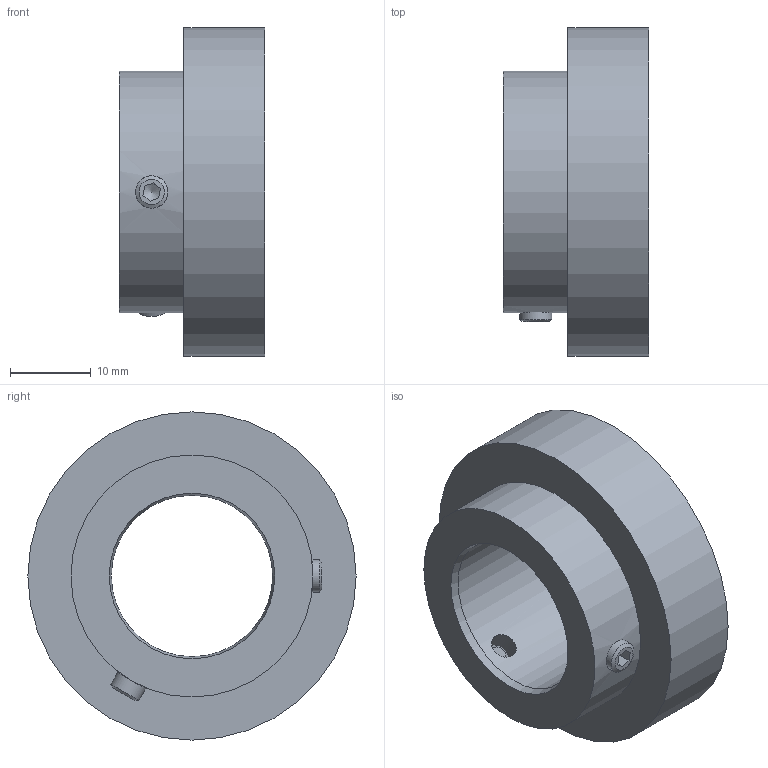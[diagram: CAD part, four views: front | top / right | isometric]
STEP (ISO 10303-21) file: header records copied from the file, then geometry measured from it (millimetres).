
FILE_DESCRIPTION((''),'2;1');
FILE_NAME('K:\Daten\PMIR7N 20-64-M-20.stp','2014-05-16T14:52:35',('kamp'),(''),'Autodesk Inventor 2008','Autodesk Inventor 2008','');
FILE_SCHEMA(('AUTOMOTIVE_DESIGN { 1 0 10303 214 1 1 1 1 }'));
Length unit declared in the file: millimetre
Products named in the file (1): Bauteil17
Bounding box: 18 x 40.7 x 40.7 mm (x, y, z)
Volume: 12988 mm3; surface area: 5220 mm2
Topology: 1 solids, 1 shells, 92 faces, 243 edges, 162 vertices
Faces by surface type: plane 52, bspline 21, cone 10, cylinder 9
Full cylindrical faces by diameter (mm): 4 x2, 20 x1, 30 x1, 40.7 x1
Entity records: 3076 total; most frequent: CARTESIAN_POINT 966, ORIENTED_EDGE 432, DIRECTION 332, EDGE_CURVE 216, VERTEX_POINT 152, VECTOR 140, LINE 140, EDGE_LOOP 120
